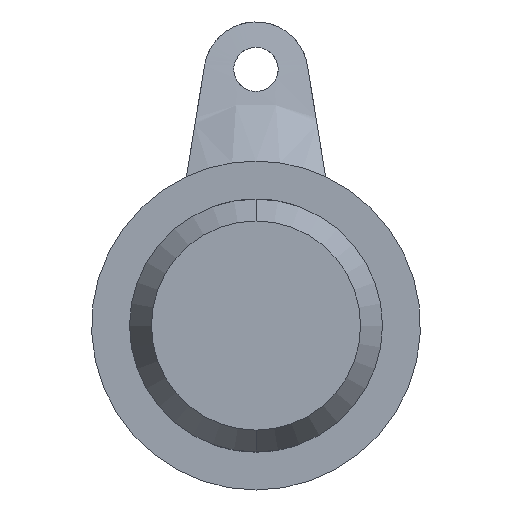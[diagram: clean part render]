
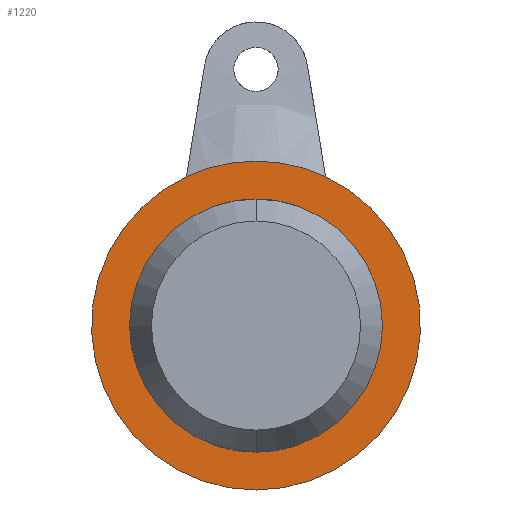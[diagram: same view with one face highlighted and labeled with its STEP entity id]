
A CAD part, front view. The second image highlights one B-rep face of the part: STEP entity #1220.
In plain terms, the highlighted planar face has unit normal (0, -1, 0).
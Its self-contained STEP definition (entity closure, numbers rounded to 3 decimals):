
#13 = CARTESIAN_POINT ( 'NONE',  ( 0., 0., 0. ) ) ;
#15 = CARTESIAN_POINT ( 'NONE',  ( 0., 0., 0. ) ) ;
#99 = DIRECTION ( 'NONE',  ( 0., 1., 0. ) ) ;
#112 = FACE_BOUND ( 'NONE', #967, .T. ) ;
#130 = CARTESIAN_POINT ( 'NONE',  ( 3.741, 0., 12.486 ) ) ;
#141 = CARTESIAN_POINT ( 'NONE',  ( 5.5, 0., 11.779 ) ) ;
#159 = CARTESIAN_POINT ( 'NONE',  ( 0., 0., 0. ) ) ;
#179 = DIRECTION ( 'NONE',  ( 0., 0., -1. ) ) ;
#214 = EDGE_CURVE ( 'NONE', #706, #815, #1814, .T. ) ;
#264 = CARTESIAN_POINT ( 'NONE',  ( 0., 0., -3.2 ) ) ;
#302 = CARTESIAN_POINT ( 'NONE',  ( 1.893, 0., 12.896 ) ) ;
#312 = ORIENTED_EDGE ( 'NONE', *, *, #214, .T. ) ;
#337 = ORIENTED_EDGE ( 'NONE', *, *, #350, .T. ) ;
#350 = EDGE_CURVE ( 'NONE', #1952, #359, #832, .T. ) ;
#355 = DIRECTION ( 'NONE',  ( 0., 0., 1. ) ) ;
#359 = VERTEX_POINT ( 'NONE', #1129 ) ;
#419 = DIRECTION ( 'NONE',  ( 0., -1., 0. ) ) ;
#462 = CARTESIAN_POINT ( 'NONE',  ( -3.741, 0., 12.486 ) ) ;
#533 = VERTEX_POINT ( 'NONE', #597 ) ;
#560 = DIRECTION ( 'NONE',  ( 0., 0., 1. ) ) ;
#597 = CARTESIAN_POINT ( 'NONE',  ( 0., 0., -13. ) ) ;
#610 = DIRECTION ( 'NONE',  ( 0., -1., 0. ) ) ;
#673 = AXIS2_PLACEMENT_3D ( 'NONE', #15, #1271, #355 ) ;
#706 = VERTEX_POINT ( 'NONE', #1706 ) ;
#760 = CARTESIAN_POINT ( 'NONE',  ( 0.947, 0., 13. ) ) ;
#761 = PLANE ( 'NONE',  #897 ) ;
#768 = CARTESIAN_POINT ( 'NONE',  ( -5.5, 0., 11.779 ) ) ;
#785 = DIRECTION ( 'NONE',  ( 0., 0., -1. ) ) ;
#815 = VERTEX_POINT ( 'NONE', #1532 ) ;
#832 = CIRCLE ( 'NONE', #673, 10. ) ;
#897 = AXIS2_PLACEMENT_3D ( 'NONE', #264, #419, #1863 ) ;
#917 = CARTESIAN_POINT ( 'NONE',  ( 0., 0., 0. ) ) ;
#927 = CARTESIAN_POINT ( 'NONE',  ( -4.641, 0., 12.18 ) ) ;
#954 = ORIENTED_EDGE ( 'NONE', *, *, #1617, .T. ) ;
#967 = EDGE_LOOP ( 'NONE', ( #337, #1616 ) ) ;
#1129 = CARTESIAN_POINT ( 'NONE',  ( 0., 0., -10. ) ) ;
#1217 = AXIS2_PLACEMENT_3D ( 'NONE', #917, #99, #560 ) ;
#1220 = ADVANCED_FACE ( 'NONE', ( #112, #1993 ), #761, .T. ) ;
#1271 = DIRECTION ( 'NONE',  ( 0., 1., 0. ) ) ;
#1356 = CIRCLE ( 'NONE', #1763, 13. ) ;
#1386 = AXIS2_PLACEMENT_3D ( 'NONE', #13, #1567, #179 ) ;
#1391 = CARTESIAN_POINT ( 'NONE',  ( -1.893, 0., 12.896 ) ) ;
#1409 = EDGE_CURVE ( 'NONE', #359, #1952, #1854, .T. ) ;
#1448 = ORIENTED_EDGE ( 'NONE', *, *, #1465, .T. ) ;
#1465 = EDGE_CURVE ( 'NONE', #533, #706, #1749, .T. ) ;
#1532 = CARTESIAN_POINT ( 'NONE',  ( -5.5, 0., 11.779 ) ) ;
#1549 = CARTESIAN_POINT ( 'NONE',  ( 4.642, 0., 12.18 ) ) ;
#1567 = DIRECTION ( 'NONE',  ( 0., -1., 0. ) ) ;
#1616 = ORIENTED_EDGE ( 'NONE', *, *, #1409, .T. ) ;
#1617 = EDGE_CURVE ( 'NONE', #815, #533, #1356, .T. ) ;
#1642 = EDGE_LOOP ( 'NONE', ( #954, #1448, #312 ) ) ;
#1706 = CARTESIAN_POINT ( 'NONE',  ( 5.5, 0., 11.779 ) ) ;
#1749 = CIRCLE ( 'NONE', #1386, 13. ) ;
#1763 = AXIS2_PLACEMENT_3D ( 'NONE', #159, #610, #785 ) ;
#1814 = B_SPLINE_CURVE_WITH_KNOTS ( 'NONE', 3,
 ( #141, #1549, #130, #302, #760, #2015, #1391, #462, #927, #768 ),
 .UNSPECIFIED., .F., .F.,
 ( 4, 2, 2, 2, 4 ),
 ( 0., 0.25, 0.5, 0.75, 1. ),
 .UNSPECIFIED. ) ;
#1830 = CARTESIAN_POINT ( 'NONE',  ( 0., 0., 10. ) ) ;
#1854 = CIRCLE ( 'NONE', #1217, 10. ) ;
#1863 = DIRECTION ( 'NONE',  ( 0., 0., -1. ) ) ;
#1952 = VERTEX_POINT ( 'NONE', #1830 ) ;
#1993 = FACE_OUTER_BOUND ( 'NONE', #1642, .T. ) ;
#2015 = CARTESIAN_POINT ( 'NONE',  ( -0.947, 0., 13. ) ) ;
